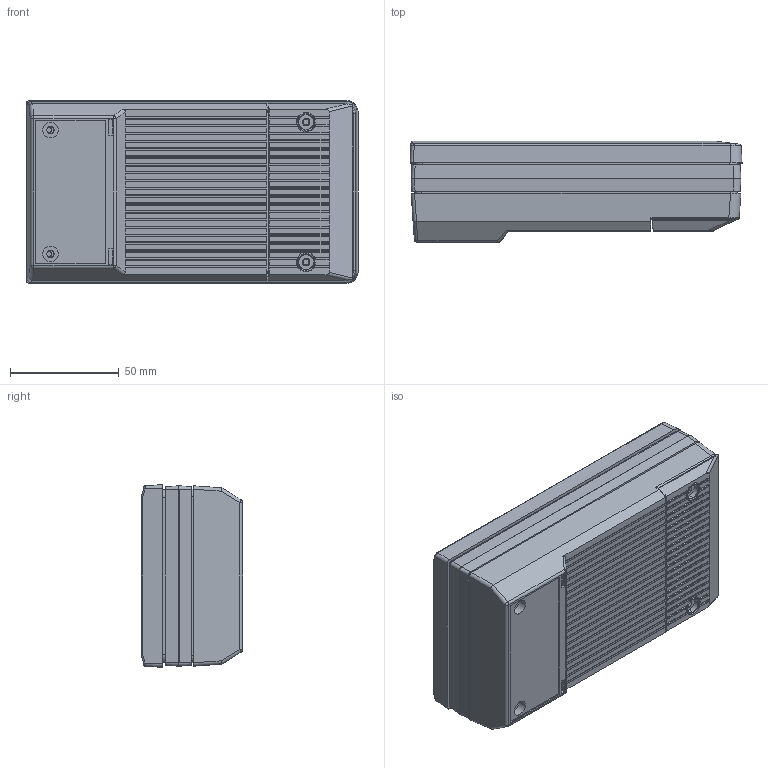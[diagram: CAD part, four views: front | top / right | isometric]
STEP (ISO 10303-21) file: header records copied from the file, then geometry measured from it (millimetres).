
FILE_DESCRIPTION (( 'STEP AP214' ), '1' );
FILE_NAME ('MBS-assem.STEP', '2019-10-25T15:03:29', ( 'Rudy' ), ( '' ), 'SwSTEP 2.0', 'SolidWorks 2014', '' );
FILE_SCHEMA (( 'AUTOMOTIVE_DESIGN' ));
Length unit declared in the file: inch
Products named in the file (5): MBS-expander; MBS-door; MBS-TOP; MBS-BOT; MBS-assem
Assembly tree (4 placements, depth 2):
  MBS-assem
    MBS-BOT
    MBS-TOP
    MBS-door
    MBS-expander
Bounding box: 152.93 x 46.61 x 84.1 mm (x, y, z)
Volume: 145118.1 mm3; surface area: 137478.5 mm2
Topology: 4 solids, 4 shells, 2356 faces, 6254 edges, 4067 vertices
Faces by surface type: plane 1250, bspline 564, cylinder 420, torus 64, cone 54, sphere 4
Entity records: 101433 total; most frequent: CARTESIAN_POINT 42676, ORIENTED_EDGE 12492, DIRECTION 9460, EDGE_CURVE 6246, VERTEX_POINT 4067, LINE 3934, VECTOR 3934, AXIS2_PLACEMENT_3D 2763
